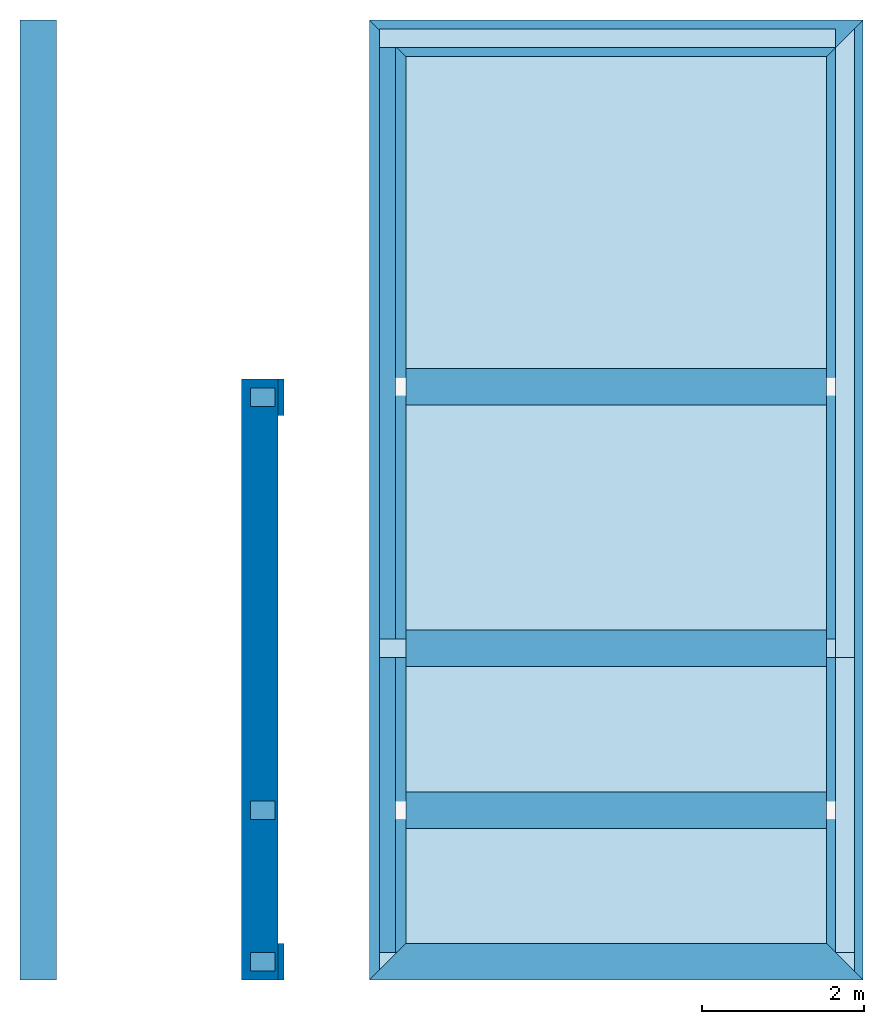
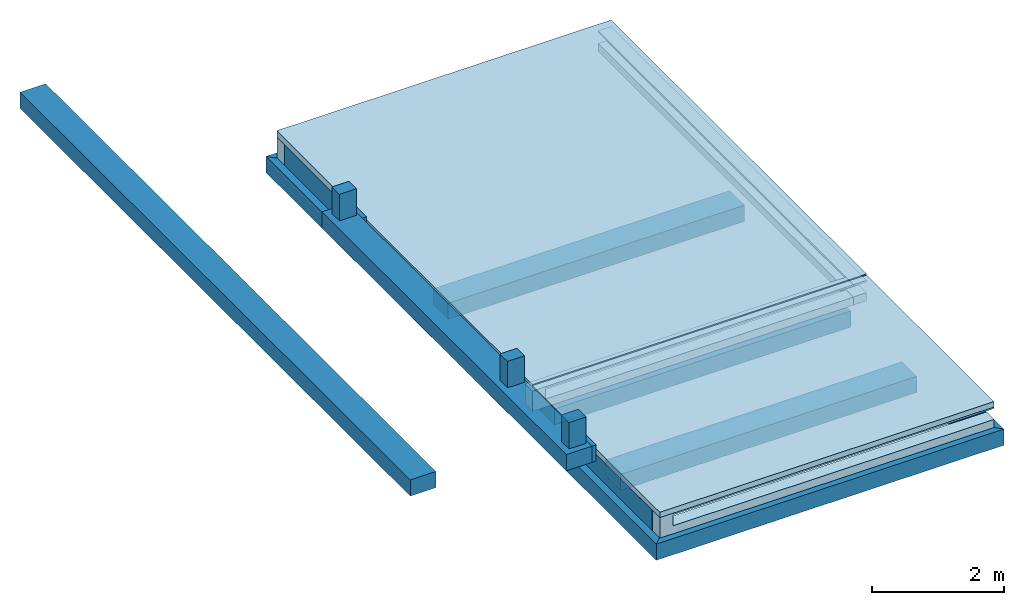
# One storey, part 1 of 2: 14 walls, 7 footings, 2 slabs.
"""IFC2X3 building model written with IfcOpenShell, lengths in metres."""

from ifc_helpers import new_model, entity, si_unit, converted_unit, derived_unit, money_unit, direction, frame, origin_with_axes, place, context, subcontext, project, spatial, polyline, outline, extrude, boolean, faceted_brep, material, layer, layer_set, layer_usage, type_object, element, save


model = new_model("IFC2X3")

# Units and contexts
model_context = context("Model", 3, precision=1e-05, world=origin_with_axes(), true_north=direction((0.0, 1.0)))
body_context = subcontext(model_context, "Body", "Model", "MODEL_VIEW")
ifc_project = project(units=[si_unit("LENGTHUNIT", "METRE"), si_unit("AREAUNIT", "SQUARE_METRE"), si_unit("VOLUMEUNIT", "CUBIC_METRE"), converted_unit("PLANEANGLEUNIT", "DEGREE", entity("IfcPlaneAngleMeasure", 0.0174532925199), si_unit("PLANEANGLEUNIT", "RADIAN"), dimensions=[0, 0, 0, 0, 0, 0, 0]), si_unit("SOLIDANGLEUNIT", "STERADIAN"), money_unit("CHF"), converted_unit("TIMEUNIT", "Year", entity("IfcTimeMeasure", 31556926.0), si_unit("TIMEUNIT", "SECOND"), dimensions=[0, 0, 1, 0, 0, 0, 0]), si_unit("MASSUNIT", "GRAM", prefix="KILO"), si_unit("THERMODYNAMICTEMPERATUREUNIT", "DEGREE_CELSIUS"), si_unit("LUMINOUSINTENSITYUNIT", "LUMEN"), si_unit("ENERGYUNIT", "JOULE", prefix="MEGA"), derived_unit("THERMALCONDUCTANCEUNIT", [(si_unit("POWERUNIT", "WATT"), 1), (si_unit("LENGTHUNIT", "METRE"), -1), (si_unit("THERMODYNAMICTEMPERATUREUNIT", "KELVIN"), -1)]), derived_unit("SPECIFICHEATCAPACITYUNIT", [(si_unit("ENERGYUNIT", "JOULE"), 1), (si_unit("MASSUNIT", "GRAM", prefix="KILO"), -1), (si_unit("THERMODYNAMICTEMPERATUREUNIT", "KELVIN"), -1)]), derived_unit("MASSDENSITYUNIT", [(si_unit("MASSUNIT", "GRAM", prefix="KILO"), 1), (si_unit("VOLUMEUNIT", "CUBIC_METRE"), -1)])], contexts=[model_context])

# Site, building, storey
site_placement = place(None, origin_with_axes())
site = spatial("IfcSite", under=ifc_project, at=site_placement, Name="Site", CompositionType="ELEMENT")
building_placement = place(site_placement, origin_with_axes())
building = spatial("IfcBuilding", under=site, at=building_placement, Name="Bâtiment", CompositionType="ELEMENT")
storey_placement = place(building_placement, frame((0.0, 0.0, -2.8), z_axis=(0.0, 0.0, 1.0), x_axis=(1.0, 0.0, 0.0)))
storey = spatial("IfcBuildingStorey", under=building, at=storey_placement, Name="FONDATIONS", CompositionType="ELEMENT", Elevation=-2.8)

# Footings
ifc_material = material(Name="Hachure solide 2628782308")
footing_1_placement = place(storey_placement, frame((89.1055190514, 18.8103410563, -0.49), z_axis=(0.0, 0.0, 1.0), x_axis=(1.0, 0.0, 0.0)))
element("IfcFooting", 1, at=footing_1_placement, inside=storey, material=ifc_material, Name="MurExt-002", PredefinedType="NOTDEFINED", context=body_context, shape_type="CSG", body=[
    boolean("DIFFERENCE", extrude(outline(polyline([(0.0, -0.23), (5.86, -0.23), (5.86, 0.0), (0.0, 0.0), (0.0, -0.23)])), origin_with_axes(), (0.0, 0.0, 1.0), 0.38), faceted_brep([(0.23, 0.0, 0.35), (5.63, 0.0, 0.35), (5.63, 0.0, 0.38), (5.86, 0.0, 0.38), (5.86, 0.0, 0.0), (5.63, 0.0, 0.0), (5.63, 0.0, 0.15), (0.23, 0.0, 0.15), (0.23, -0.23, 0.35), (5.63, -0.23, 0.35), (5.63, -0.23, 0.38), (5.86, -0.23, 0.38), (5.86, -0.23, 0.0), (5.63, -0.23, 0.0), (5.63, -0.23, 0.15), (0.23, -0.23, 0.15)], [[[0, 1, 2, 3, 4, 5, 6, 7]], [[1, 0, 8, 9]], [[10, 2, 1, 9]], [[2, 10, 11, 3]], [[11, 12, 4, 3]], [[13, 5, 4, 12]], [[6, 5, 13, 14]], [[7, 6, 14, 15]], [[0, 7, 15, 8]], [[14, 13, 12, 11, 10, 9, 8, 15]]])),
])
footing_2_placement = place(storey_placement, frame((89.1055190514, 7.18034105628, -0.49), z_axis=(0.0, 0.0, 1.0), x_axis=(1.0, 0.0, 0.0)))
element("IfcFooting", 2, at=footing_2_placement, inside=storey, material=ifc_material, Name="MurExt-002", PredefinedType="NOTDEFINED", context=body_context, shape_type="CSG", body=[
    boolean("DIFFERENCE", extrude(outline(polyline([(0.0, 0.0), (5.86, 0.0), (5.86, 0.23), (0.0, 0.23), (0.0, 0.0)])), origin_with_axes(), (0.0, 0.0, 1.0), 0.38), faceted_brep([(0.23, 0.23, 0.15), (0.23, 0.23, 0.35), (5.86, 0.23, 0.35), (5.86, 0.23, 0.15), (0.23, 0.0, 0.15), (0.23, 0.0, 0.35), (5.86, 0.0, 0.35), (5.86, 0.0, 0.15)], [[[0, 1, 2, 3]], [[1, 0, 4, 5]], [[6, 2, 1, 5]], [[7, 3, 2, 6]], [[0, 3, 7, 4]], [[4, 7, 6, 5]]])),
])
footing_3_placement = place(storey_placement, frame((89.1055190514, 18.8103410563, -0.49), z_axis=(0.0, 0.0, 1.0), x_axis=(0.0, -1.0, 0.0)))
element("IfcFooting", 3, at=footing_3_placement, inside=storey, material=ifc_material, Name="Mur-037", PredefinedType="NOTDEFINED", context=body_context, shape_type="CSG", body=[
    boolean("DIFFERENCE", boolean("DIFFERENCE", extrude(outline(polyline([(0.0, 0.0), (7.76, 0.0), (7.76, 0.2), (0.0, 0.2), (0.0, 0.0)])), origin_with_axes(), (0.0, 0.0, 1.0), 0.38), faceted_brep([(7.53, 0.2, 0.0), (7.53, 0.2, 0.38), (7.76, 0.2, 0.38), (7.76, 0.2, 0.0), (7.53, 0.0, 0.38), (7.53, 0.0, 0.0), (7.76, 0.0, 0.38), (7.76, 0.0, 0.0)], [[[0, 1, 2, 3]], [[4, 1, 0, 5]], [[1, 4, 6, 2]], [[6, 7, 3, 2]], [[5, 0, 3, 7]], [[4, 5, 7, 6]]])), faceted_brep([(0.23, 0.0, 0.38), (0.23, 0.2, 0.38), (0.0, 0.2, 0.38), (0.0, 0.0, 0.38), (0.23, 0.2, 0.0), (0.23, 0.0, 0.0), (0.0, 0.2, 0.0), (0.0, 0.0, 0.0)], [[[0, 1, 2, 3]], [[4, 1, 0, 5]], [[1, 4, 6, 2]], [[2, 6, 7, 3]], [[5, 0, 3, 7]], [[4, 5, 7, 6]]])),
])
footing_4_placement = place(storey_placement, frame((94.9655190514, 11.0503410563, -0.49), z_axis=(0.0, 0.0, 1.0), x_axis=(0.0, -1.0, 0.0)))
element("IfcFooting", 4, at=footing_4_placement, inside=storey, material=ifc_material, Name="MurExt-014", PredefinedType="NOTDEFINED", context=body_context, shape_type="CSG", body=[
    boolean("DIFFERENCE", extrude(outline(polyline([(0.0, -0.23), (3.87, -0.23), (3.87, 0.0), (0.0, 0.0), (0.0, -0.23)])), origin_with_axes(), (0.0, 0.0, 1.0), 0.38), faceted_brep([(0.0, -0.23, 0.35), (0.0, 0.0, 0.35), (0.0, 0.0, 0.15), (0.0, -0.23, 0.15), (3.64, 0.0, 0.35), (3.64, -0.23, 0.35), (3.64, 0.0, 0.38), (3.87, 0.0, 0.38), (3.87, 0.0, 0.0), (3.64, 0.0, 0.0), (3.64, 0.0, 0.15), (3.64, -0.23, 0.15), (3.64, -0.23, 0.0), (3.87, -0.23, 0.0), (3.87, -0.23, 0.38), (3.64, -0.23, 0.38)], [[[0, 1, 2, 3]], [[4, 1, 0, 5]], [[4, 6, 7, 8, 9, 10, 2, 1]], [[3, 2, 10, 11]], [[5, 0, 3, 11, 12, 13, 14, 15]], [[15, 6, 4, 5]], [[6, 15, 14, 7]], [[14, 13, 8, 7]], [[12, 9, 8, 13]], [[10, 9, 12, 11]]])),
])
footing_5_placement = place(storey_placement, frame((89.1055190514, 7.18034105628, -0.49), z_axis=(0.0, 0.0, 1.0), x_axis=(0.0, 1.0, 0.0)))
element("IfcFooting", 5, at=footing_5_placement, inside=storey, material=ifc_material, Name="MurExt-013", PredefinedType="NOTDEFINED", context=body_context, shape_type="CSG", body=[
    boolean("DIFFERENCE", boolean("DIFFERENCE", extrude(outline(polyline([(0.0, -0.2), (4.1, -0.2), (4.1, 0.0), (0.0, 0.0), (0.0, -0.2)])), origin_with_axes(), (0.0, 0.0, 1.0), 0.38), faceted_brep([(0.23, -0.2, 0.0), (0.23, -0.2, 0.38), (0.0, -0.2, 0.38), (0.0, -0.2, 0.0), (0.23, 0.0, 0.38), (0.23, 0.0, 0.0), (0.0, 0.0, 0.38), (0.0, 0.0, 0.0)], [[[0, 1, 2, 3]], [[4, 1, 0, 5]], [[1, 4, 6, 2]], [[6, 7, 3, 2]], [[5, 0, 3, 7]], [[4, 5, 7, 6]]])), faceted_brep([(3.87, 0.0, 0.38), (3.87, -0.2, 0.38), (4.1, -0.2, 0.38), (4.1, 0.0, 0.38), (3.87, -0.2, 0.0), (3.87, 0.0, 0.0), (4.1, -0.2, 0.0), (4.1, 0.0, 0.0)], [[[0, 1, 2, 3]], [[4, 1, 0, 5]], [[1, 4, 6, 2]], [[2, 6, 7, 3]], [[5, 0, 3, 7]], [[4, 5, 7, 6]]])),
])
footing_6_placement = place(storey_placement, frame((89.1055190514, 11.2803410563, -0.49), z_axis=(0.0, 0.0, 1.0), x_axis=(1.0, 0.0, 0.0)))
element("IfcFooting", 6, at=footing_6_placement, inside=storey, material=ifc_material, Name="MurExt-002", PredefinedType="NOTDEFINED", context=body_context, shape_type="CSG", body=[
    boolean("DIFFERENCE", extrude(outline(polyline([(0.0, -0.23), (5.86, -0.23), (5.86, 0.0), (0.0, 0.0), (0.0, -0.23)])), origin_with_axes(), (0.0, 0.0, 1.0), 0.38), faceted_brep([(0.23, 0.0, 0.35), (5.63, 0.0, 0.35), (5.63, 0.0, 0.38), (5.86, 0.0, 0.38), (5.86, 0.0, 0.0), (5.63, 0.0, 0.0), (5.63, 0.0, 0.15), (0.23, 0.0, 0.15), (0.23, -0.23, 0.35), (5.63, -0.23, 0.35), (5.63, -0.23, 0.38), (5.86, -0.23, 0.38), (5.86, -0.23, 0.0), (5.63, -0.23, 0.0), (5.63, -0.23, 0.15), (0.23, -0.23, 0.15)], [[[0, 1, 2, 3, 4, 5, 6, 7]], [[1, 0, 8, 9]], [[10, 2, 1, 9]], [[2, 10, 11, 3]], [[11, 12, 4, 3]], [[13, 5, 4, 12]], [[6, 5, 13, 14]], [[7, 6, 14, 15]], [[0, 7, 15, 8]], [[14, 13, 12, 11, 10, 9, 8, 15]]])),
])
footing_7_placement = place(storey_placement, frame((94.9655190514, 18.8103410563, -0.49), z_axis=(0.0, 0.0, 1.0), x_axis=(0.0, -1.0, 0.0)))
element("IfcFooting", 7, at=footing_7_placement, inside=storey, material=ifc_material, Name="Mur-037", PredefinedType="NOTDEFINED", context=body_context, shape_type="CSG", body=[
    boolean("DIFFERENCE", boolean("DIFFERENCE", extrude(outline(polyline([(0.0, -0.23), (7.76, -0.23), (7.76, 0.0), (0.0, 0.0), (0.0, -0.23)])), origin_with_axes(), (0.0, 0.0, 1.0), 0.4), faceted_brep([(0.0, -0.23, 0.35), (0.0, 0.0, 0.35), (0.0, 0.0, 0.15), (0.0, -0.23, 0.15), (7.76, 0.0, 0.35), (7.76, -0.23, 0.35), (7.76, 0.0, 0.15), (7.76, -0.23, 0.15)], [[[0, 1, 2, 3]], [[4, 1, 0, 5]], [[1, 4, 6, 2]], [[3, 2, 6, 7]], [[5, 0, 3, 7]], [[4, 5, 7, 6]]])), faceted_brep([(7.76, 0.0, 0.38), (0.0, 0.0, 0.38), (0.0, 0.0, 0.4), (7.76, 0.0, 0.4), (0.0, -0.23, 0.38), (7.76, -0.23, 0.38), (7.53, -0.23, 0.38), (0.0, -0.23, 0.4), (7.76, -0.23, 0.4)], [[[0, 1, 2, 3]], [[4, 1, 0, 5, 6]], [[1, 4, 7, 2]], [[2, 7, 8, 3]], [[5, 0, 3, 8]], [[6, 5, 8, 7, 4]]])),
])

# Slabs
ifc_layer_1 = layer(ifc_material, 0.1, ventilated="UNKNOWN")
ifc_layer_set_1 = layer_set([ifc_layer_1], Name="Hachure solide 2628782308 0.1")
ifc_layer_usage_1 = layer_usage(ifc_layer_set_1, "AXIS3", "NEGATIVE", 0.1)
slab_type_1 = type_object("IfcSlabType", Name="Hachure solide 2628782308 100", PredefinedType="FLOOR")
slab_1_placement = place(storey_placement, frame((89.1055190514, 7.18034105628, -0.01), z_axis=(0.0, 0.0, 1.0), x_axis=(1.0, 0.0, 0.0)))
element("IfcSlab", 8, at=slab_1_placement, inside=storey, type_object=slab_type_1, material=ifc_layer_usage_1, Name="Dalle-011", PredefinedType="FLOOR", context=body_context, shape_type="SweptSolid", body=[
    extrude(outline(polyline([(0.0, 0.0), (5.86, 0.0), (5.86, 3.87), (0.0, 3.87), (0.0, 0.0)])), frame((0.0, 0.0, -0.1), z_axis=(0.0, 0.0, 1.0), x_axis=(1.0, 0.0, 0.0)), (0.0, 0.0, 1.0), 0.1),
])
ifc_layer_2 = layer(ifc_material, 0.12, ventilated="UNKNOWN")
ifc_layer_set_2 = layer_set([ifc_layer_2], Name="Hachure solide 2628782308 0.12")
ifc_layer_usage_2 = layer_usage(ifc_layer_set_2, "AXIS3", "NEGATIVE", 0.12)
slab_type_2 = type_object("IfcSlabType", Name="Hachure solide 2628782308 120", PredefinedType="FLOOR")
slab_2_placement = place(storey_placement, frame((89.1055190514, 18.8103410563, 0.01), z_axis=(0.0, 0.0, 1.0), x_axis=(1.0, 0.0, 0.0)))
element("IfcSlab", 9, at=slab_2_placement, inside=storey, type_object=slab_type_2, material=ifc_layer_usage_2, Name="Dalle-009", PredefinedType="FLOOR", context=body_context, shape_type="SweptSolid", body=[
    extrude(outline(polyline([(0.0, 0.0), (0.0, -7.76), (5.86, -7.76), (5.86, 0.0), (0.0, 0.0)])), frame((0.0, 0.0, -0.12), z_axis=(0.0, 0.0, 1.0), x_axis=(1.0, 0.0, 0.0)), (0.0, 0.0, 1.0), 0.12),
])

# Walls
ifc_layer_3 = layer(ifc_material, 0.45, ventilated="UNKNOWN")
ifc_layer_set_3 = layer_set([ifc_layer_3], Name="Hachure solide 2628782308 0.45")
ifc_layer_usage_3 = layer_usage(ifc_layer_set_3, "AXIS2", "POSITIVE", -0.225)
wall_type_1 = type_object("IfcWallType", Name="Hachure solide 2628782308 450", PredefinedType="NOTDEFINED")
wall_1_placement = place(storey_placement, frame((94.8505190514, 18.6953410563, -0.79), z_axis=(0.0, 0.0, 1.0), x_axis=(0.0, -1.0, 0.0)))
element("IfcWallStandardCase", 10, at=wall_1_placement, inside=storey, type_object=wall_type_1, material=ifc_layer_usage_3, Name="MurExt-017", context=body_context, shape_type="SweptSolid", body=[
    extrude(outline(polyline([(0.225, -0.225), (11.175, -0.225), (11.625, 0.225), (-0.225, 0.225), (0.225, -0.225)])), origin_with_axes(), (0.0, 0.0, 1.0), 0.3),
])
ifc_layer_usage_4 = layer_usage(ifc_layer_set_3, "AXIS2", "POSITIVE", -0.225)
wall_2_placement = place(storey_placement, frame((89.2055190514, 9.16426660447, -0.79), z_axis=(0.0, 0.0, 1.0), x_axis=(1.0, 0.0, 0.0)))
element("IfcWallStandardCase", 11, at=wall_2_placement, inside=storey, type_object=wall_type_1, material=ifc_layer_usage_4, Name="MurExt-017", context=body_context, shape_type="SweptSolid", body=[
    extrude(outline(polyline([(0.225, -0.225), (5.42, -0.225), (5.42, 0.225), (0.225, 0.225), (0.225, -0.225)])), origin_with_axes(), (0.0, 0.0, 1.0), 0.3),
])
ifc_layer_usage_5 = layer_usage(ifc_layer_set_3, "AXIS2", "POSITIVE", -0.225)
wall_3_placement = place(storey_placement, frame((87.6285190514, 7.07034105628, 1.42079341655), z_axis=(0.0, 0.0, 1.0), x_axis=(0.0, 1.0, 0.0)))
element("IfcWallStandardCase", 12, at=wall_3_placement, inside=storey, type_object=wall_type_1, material=ifc_layer_usage_5, Name="MurExt-015", context=body_context, shape_type="SweptSolid", body=[
    extrude(outline(polyline([(0.0, -0.225), (7.42, -0.225), (7.42, 0.225), (0.0, 0.225), (0.0, -0.225)])), origin_with_axes(), (0.0, 0.0, 1.0), 0.3),
])
ifc_layer_usage_6 = layer_usage(ifc_layer_set_3, "AXIS2", "POSITIVE", -0.225)
wall_4_placement = place(storey_placement, frame((87.6285190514, 7.29534105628, 1.42079341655), z_axis=(0.0, 0.0, 1.0), x_axis=(1.0, 0.0, 0.0)))
element("IfcWallStandardCase", 13, at=wall_4_placement, inside=storey, type_object=wall_type_1, material=ifc_layer_usage_6, Name="MurExt-018", context=body_context, shape_type="SweptSolid", body=[
    extrude(outline(polyline([(0.225, -0.225), (0.295, -0.225), (0.295, 0.225), (0.225, 0.225), (0.225, -0.225)])), origin_with_axes(), (0.0, 0.0, 1.0), 0.3),
])
ifc_layer_usage_7 = layer_usage(ifc_layer_set_3, "AXIS2", "POSITIVE", -0.225)
wall_5_placement = place(storey_placement, frame((87.6285190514, 14.2653410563, 1.42079341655), z_axis=(0.0, 0.0, 1.0), x_axis=(1.0, 0.0, 0.0)))
element("IfcWallStandardCase", 14, at=wall_5_placement, inside=storey, type_object=wall_type_1, material=ifc_layer_usage_7, Name="MurExt-018", context=body_context, shape_type="SweptSolid", body=[
    extrude(outline(polyline([(0.225, -0.225), (0.295, -0.225), (0.295, 0.225), (0.225, 0.225), (0.225, -0.225)])), origin_with_axes(), (0.0, 0.0, 1.0), 0.3),
])
ifc_layer_usage_8 = layer_usage(ifc_layer_set_3, "AXIS2", "POSITIVE", -0.225)
wall_6_placement = place(storey_placement, frame((89.2055190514, 11.1653410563, -0.79), z_axis=(0.0, 0.0, 1.0), x_axis=(1.0, 0.0, 0.0)))
element("IfcWallStandardCase", 15, at=wall_6_placement, inside=storey, type_object=wall_type_1, material=ifc_layer_usage_8, Name="MurExt-017", context=body_context, shape_type="SweptSolid", body=[
    extrude(outline(polyline([(0.225, -0.225), (5.42, -0.225), (5.42, 0.225), (0.225, 0.225), (0.225, -0.225)])), origin_with_axes(), (0.0, 0.0, 1.0), 0.3),
])
ifc_layer_usage_9 = layer_usage(ifc_layer_set_3, "AXIS2", "POSITIVE", -0.225)
wall_7_placement = place(storey_placement, frame((89.2055190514, 7.29534105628, -0.79), z_axis=(0.0, 0.0, 1.0), x_axis=(1.0, 0.0, 0.0)))
element("IfcWallStandardCase", 16, at=wall_7_placement, inside=storey, type_object=wall_type_1, material=ifc_layer_usage_9, Name="MurExt-017", context=body_context, shape_type="SweptSolid", body=[
    extrude(outline(polyline([(-0.225, -0.225), (5.87, -0.225), (5.42, 0.225), (0.225, 0.225), (-0.225, -0.225)])), origin_with_axes(), (0.0, 0.0, 1.0), 0.3),
])
ifc_layer_usage_10 = layer_usage(ifc_layer_set_3, "AXIS2", "POSITIVE", -0.225)
wall_8_placement = place(storey_placement, frame((89.2055190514, 18.6953410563, -0.79), z_axis=(0.0, 0.0, 1.0), x_axis=(0.0, -1.0, 0.0)))
element("IfcWallStandardCase", 17, at=wall_8_placement, inside=storey, type_object=wall_type_1, material=ifc_layer_usage_10, Name="MurExt-017", context=body_context, shape_type="SweptSolid", body=[
    extrude(outline(polyline([(-0.225, -0.225), (11.625, -0.225), (11.175, 0.225), (0.225, 0.225), (-0.225, -0.225)])), origin_with_axes(), (0.0, 0.0, 1.0), 0.3),
])
ifc_layer_usage_11 = layer_usage(ifc_layer_set_3, "AXIS2", "POSITIVE", -0.225)
wall_9_placement = place(storey_placement, frame((84.8923789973, 18.9203410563, 1.91), z_axis=(0.0, 0.0, 1.0), x_axis=(0.0, -1.0, 0.0)))
element("IfcWallStandardCase", 18, at=wall_9_placement, inside=storey, type_object=wall_type_1, material=ifc_layer_usage_11, Name="MurExt-017", context=body_context, shape_type="SweptSolid", body=[
    extrude(outline(polyline([(0.0, -0.225), (11.85, -0.225), (11.85, 0.225), (0.0, 0.225), (0.0, -0.225)])), origin_with_axes(), (0.0, 0.0, 1.0), 0.3),
])
ifc_layer_usage_12 = layer_usage(ifc_layer_set_3, "AXIS2", "POSITIVE", -0.225)
wall_10_placement = place(storey_placement, frame((89.2055190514, 14.3953410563, -0.79), z_axis=(0.0, 0.0, 1.0), x_axis=(1.0, 0.0, 0.0)))
element("IfcWallStandardCase", 19, at=wall_10_placement, inside=storey, type_object=wall_type_1, material=ifc_layer_usage_12, Name="MurExt-017", context=body_context, shape_type="SweptSolid", body=[
    extrude(outline(polyline([(0.225, -0.225), (5.42, -0.225), (5.42, 0.225), (0.225, 0.225), (0.225, -0.225)])), origin_with_axes(), (0.0, 0.0, 1.0), 0.3),
])
ifc_layer_usage_13 = layer_usage(ifc_layer_set_3, "AXIS2", "POSITIVE", -0.225)
wall_11_placement = place(storey_placement, frame((89.2055190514, 18.6953410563, -0.79), z_axis=(0.0, 0.0, 1.0), x_axis=(1.0, 0.0, 0.0)))
element("IfcWallStandardCase", 20, at=wall_11_placement, inside=storey, type_object=wall_type_1, material=ifc_layer_usage_13, Name="MurExt-017", context=body_context, shape_type="SweptSolid", body=[
    extrude(outline(polyline([(0.225, -0.225), (5.42, -0.225), (5.87, 0.225), (-0.225, 0.225), (0.225, -0.225)])), origin_with_axes(), (0.0, 0.0, 1.0), 0.3),
])
ifc_layer_4 = layer(ifc_material, 0.23, ventilated="UNKNOWN")
ifc_layer_set_4 = layer_set([ifc_layer_4], Name="Hachure solide 2628782308 0.23")
ifc_layer_usage_14 = layer_usage(ifc_layer_set_4, "AXIS2", "POSITIVE", -0.115)
wall_type_2 = type_object("IfcWallType", Name="Hachure solide 2628782308 230", PredefinedType="NOTDEFINED")
wall_12_placement = place(storey_placement, frame((87.8135190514, 7.29534105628, 1.72079341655), z_axis=(0.0, 0.0, 1.0), x_axis=(-1.0, 0.0, 0.0)))
element("IfcWallStandardCase", 21, at=wall_12_placement, inside=storey, type_object=wall_type_2, material=ifc_layer_usage_14, Name="MurExt-017", context=body_context, shape_type="SweptSolid", body=[
    extrude(outline(polyline([(0.0, -0.115), (0.3, -0.115), (0.3, 0.115), (0.0, 0.115), (0.0, -0.115)])), origin_with_axes(), (0.0, 0.0, 1.0), 0.490757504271),
])
ifc_layer_usage_15 = layer_usage(ifc_layer_set_4, "AXIS2", "POSITIVE", -0.115)
wall_13_placement = place(storey_placement, frame((87.8135190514, 9.16426660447, 1.72079341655), z_axis=(0.0, 0.0, 1.0), x_axis=(-1.0, 0.0, 0.0)))
element("IfcWallStandardCase", 22, at=wall_13_placement, inside=storey, type_object=wall_type_2, material=ifc_layer_usage_15, Name="MurExt-017", context=body_context, shape_type="SweptSolid", body=[
    extrude(outline(polyline([(0.0, -0.115), (0.3, -0.115), (0.3, 0.115), (0.0, 0.115), (0.0, -0.115)])), origin_with_axes(), (0.0, 0.0, 1.0), 0.489206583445),
])
ifc_layer_usage_16 = layer_usage(ifc_layer_set_4, "AXIS2", "POSITIVE", -0.115)
wall_14_placement = place(storey_placement, frame((87.8135190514, 14.2653410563, 1.72079341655), z_axis=(0.0, 0.0, 1.0), x_axis=(-1.0, 0.0, 0.0)))
element("IfcWallStandardCase", 23, at=wall_14_placement, inside=storey, type_object=wall_type_2, material=ifc_layer_usage_16, Name="MurExt-017", context=body_context, shape_type="SweptSolid", body=[
    extrude(outline(polyline([(0.0, -0.115), (0.3, -0.115), (0.3, 0.115), (0.0, 0.115), (0.0, -0.115)])), origin_with_axes(), (0.0, 0.0, 1.0), 0.490757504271),
])

save(model, "model.ifc")
